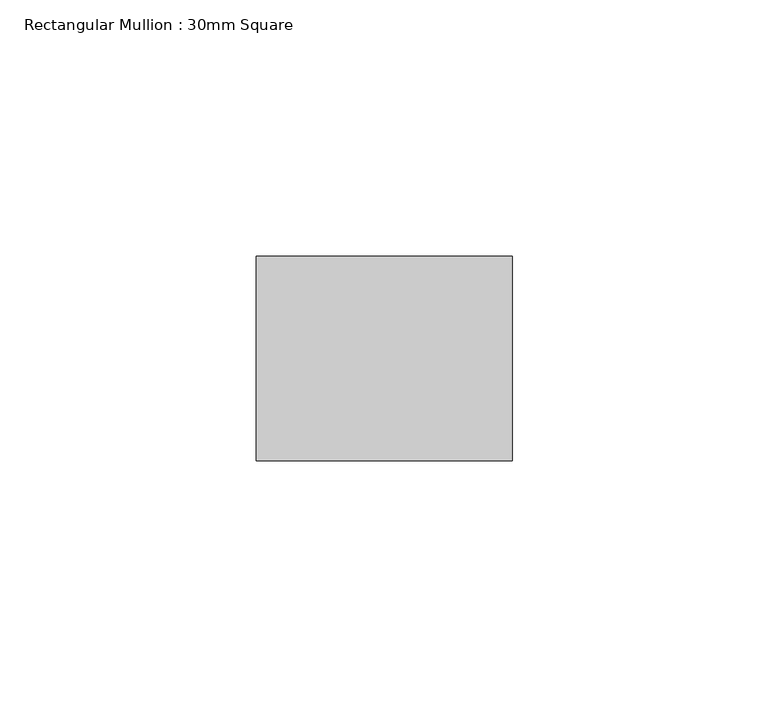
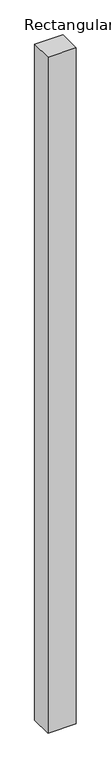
"""IFC4 building model written with IfcOpenShell, lengths in millimetres: member geometry, Rectangular Mullion : 30mm Square."""

from ifc_helpers import new_model, si_unit, frame, origin, place, context, project, spatial, polyline, outline, extrude, source, transform, mapped, element, save


def rectangular_mullion_30mm_square_83ac8318(model_context):
    return source(origin(), model_context, "Body", "SweptSolid", [
        extrude(outline(polyline([(25.0, 20.0), (25.0, -20.0), (-25.0, -20.0), (-25.0, 20.0), (25.0, 20.0)])), frame((0.0, 0.0, -1257.5841161), z_axis=(0.0, 0.0, 1.0), x_axis=(1.0, 0.0, 0.0)), (0.0, 0.0, 1.0), 1257.5841161),
    ])


if __name__ == "__main__":
    model = new_model("IFC4")
    model_context = context("Model", 3, world=origin())
    ifc_project = project(units=[si_unit("LENGTHUNIT", "METRE", prefix="MILLI")], contexts=[model_context])
    site = spatial("IfcSite", under=ifc_project)
    building = spatial("IfcBuilding", under=site)
    placement = place(None, origin())
    rectangular_mullion_30mm_square_shape = rectangular_mullion_30mm_square_83ac8318(model_context)
    element("IfcMember", 1, ObjectType="Rectangular Mullion : 30mm Square", at=placement, inside=building, context=model_context, shape_type="MappedRepresentation", body=[
        mapped(rectangular_mullion_30mm_square_shape, transform((0.0, 0.0, 0.0), x_axis=(1.0, 0.0, 0.0), y_axis=(0.0, 1.0, 0.0), z_axis=(0.0, 0.0, 1.0))),
    ])
    save(model, "model.ifc")
